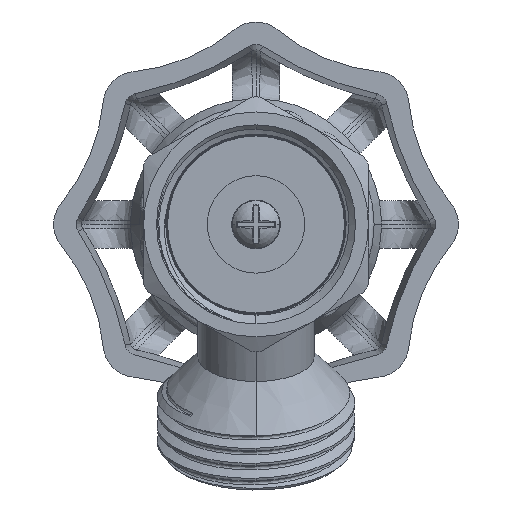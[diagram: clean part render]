
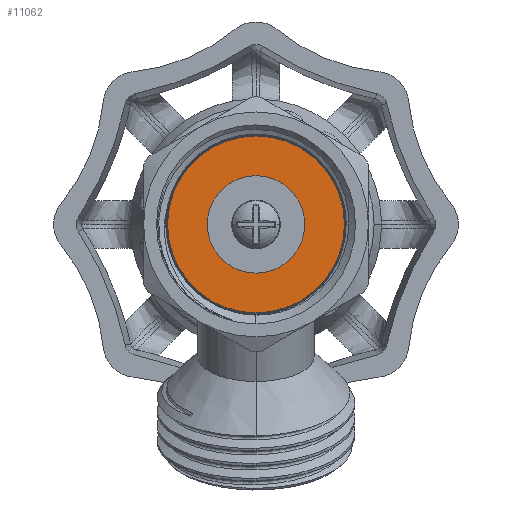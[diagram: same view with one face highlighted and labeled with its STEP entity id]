
A CAD part, left-side view. The second image highlights one B-rep face of the part: STEP entity #11062.
In plain terms, the highlighted planar face has unit normal (-1, 0, 0).
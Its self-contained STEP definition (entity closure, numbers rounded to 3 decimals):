
#3224=CARTESIAN_POINT('',(-5.,0.,0.));
#3225=DIRECTION('',(1.,0.,0.));
#3226=DIRECTION('',(0.,0.,1.));
#3227=AXIS2_PLACEMENT_3D('',#3224,#3225,#3226);
#3237=CARTESIAN_POINT('',(-5.,0.,0.));
#3238=DIRECTION('',(-1.,0.,0.));
#3239=DIRECTION('',(0.,0.,1.));
#3240=AXIS2_PLACEMENT_3D('',#3237,#3238,#3239);
#3242=CARTESIAN_POINT('',(-5.,0.,0.));
#3243=DIRECTION('',(-1.,0.,0.));
#3244=DIRECTION('',(0.,0.,1.));
#3245=AXIS2_PLACEMENT_3D('',#3242,#3243,#3244);
#3247=CARTESIAN_POINT('',(-5.,0.,0.));
#3248=DIRECTION('',(1.,0.,0.));
#3249=DIRECTION('',(0.,0.,1.));
#3250=AXIS2_PLACEMENT_3D('',#3247,#3248,#3249);
#5102=CARTESIAN_POINT('',(-5.,0.,6.5));
#5104=VERTEX_POINT('',#5102);
#5116=CARTESIAN_POINT('',(-5.,0.,-6.5));
#5118=VERTEX_POINT('',#5116);
#5239=CARTESIAN_POINT('',(-5.,0.,11.8));
#5240=CARTESIAN_POINT('',(-5.,0.,-11.8));
#5241=VERTEX_POINT('',#5239);
#5242=VERTEX_POINT('',#5240);
#11047=CARTESIAN_POINT('',(-5.,0.,0.));
#11048=DIRECTION('',(1.,0.,0.));
#11049=DIRECTION('',(0.,0.,1.));
#11050=AXIS2_PLACEMENT_3D('',#11047,#11048,#11049);
#11051=PLANE('',#11050);
#11053=ORIENTED_EDGE('',*,*,#11052,.F.);
#11055=ORIENTED_EDGE('',*,*,#11054,.T.);
#11056=EDGE_LOOP('',(#11053,#11055));
#11057=FACE_OUTER_BOUND('',#11056,.F.);
#11058=ORIENTED_EDGE('',*,*,#11026,.F.);
#11059=ORIENTED_EDGE('',*,*,#11042,.T.);
#11060=EDGE_LOOP('',(#11058,#11059));
#11061=FACE_BOUND('',#11060,.F.);
#3228=CIRCLE('',#3227,6.5);
#3241=CIRCLE('',#3240,6.5);
#3246=CIRCLE('',#3245,11.8);
#3251=CIRCLE('',#3250,11.8);
#11026=EDGE_CURVE('',#5104,#5118,#3228,.T.);
#11042=EDGE_CURVE('',#5104,#5118,#3241,.T.);
#11052=EDGE_CURVE('',#5241,#5242,#3246,.T.);
#11054=EDGE_CURVE('',#5241,#5242,#3251,.T.);
#11062=ADVANCED_FACE('',(#11057,#11061),#11051,.F.);
